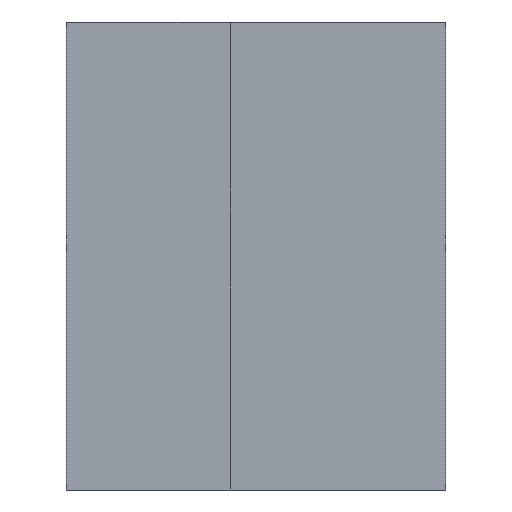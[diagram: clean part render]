
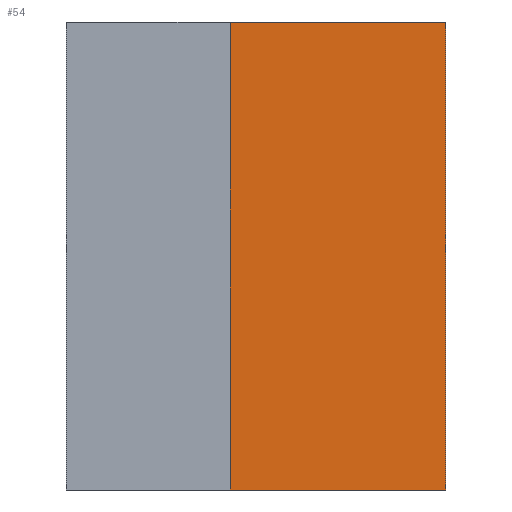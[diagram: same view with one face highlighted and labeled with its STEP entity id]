
A CAD part, left-side view. The second image highlights one B-rep face of the part: STEP entity #54.
In plain terms, the highlighted planar face has unit normal (-1, 0, 0).
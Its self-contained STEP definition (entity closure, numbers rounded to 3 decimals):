
#47=FACE_OUTER_BOUND('',#135,.T.);
#54=ADVANCED_FACE('',(#47),#66,.T.);
#66=PLANE('',#266);
#80=LINE('',#369,#98);
#81=LINE('',#371,#99);
#82=LINE('',#373,#100);
#83=LINE('',#375,#101);
#98=VECTOR('',#304,1.);
#99=VECTOR('',#307,1.);
#100=VECTOR('',#308,1.);
#101=VECTOR('',#309,1.);
#135=EDGE_LOOP('',(#168,#169,#170,#171));
#168=ORIENTED_EDGE('',*,*,#238,.F.);
#169=ORIENTED_EDGE('',*,*,#237,.F.);
#170=ORIENTED_EDGE('',*,*,#239,.T.);
#171=ORIENTED_EDGE('',*,*,#240,.T.);
#214=VERTEX_POINT('',#366);
#215=VERTEX_POINT('',#368);
#216=VERTEX_POINT('',#372);
#217=VERTEX_POINT('',#374);
#237=EDGE_CURVE('',#215,#214,#80,.T.);
#238=EDGE_CURVE('',#214,#216,#81,.T.);
#239=EDGE_CURVE('',#215,#217,#82,.T.);
#240=EDGE_CURVE('',#217,#216,#83,.T.);
#266=AXIS2_PLACEMENT_3D('',#376,#310,#311);
#304=DIRECTION('',(0.,0.,-1.));
#307=DIRECTION('',(0.,1.,0.));
#308=DIRECTION('',(0.,1.,0.));
#309=DIRECTION('',(0.,0.,-1.));
#310=DIRECTION('',(-1.,0.,0.));
#311=DIRECTION('',(0.,0.,1.));
#366=CARTESIAN_POINT('',(20.5,-4.6,-5.));
#368=CARTESIAN_POINT('',(20.5,-4.6,5.));
#369=CARTESIAN_POINT('',(20.5,-4.6,5.));
#371=CARTESIAN_POINT('',(20.5,-4.6,-5.));
#372=CARTESIAN_POINT('',(20.5,0.,-5.));
#373=CARTESIAN_POINT('',(20.5,-4.6,5.));
#374=CARTESIAN_POINT('',(20.5,0.,5.));
#375=CARTESIAN_POINT('',(20.5,0.,5.));
#376=CARTESIAN_POINT('',(20.5,-4.6,5.));
